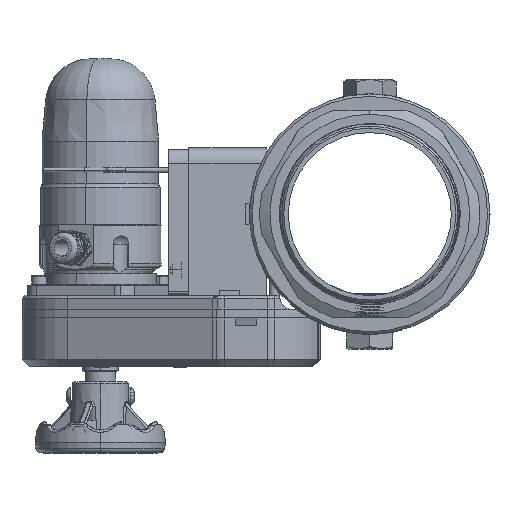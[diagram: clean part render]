
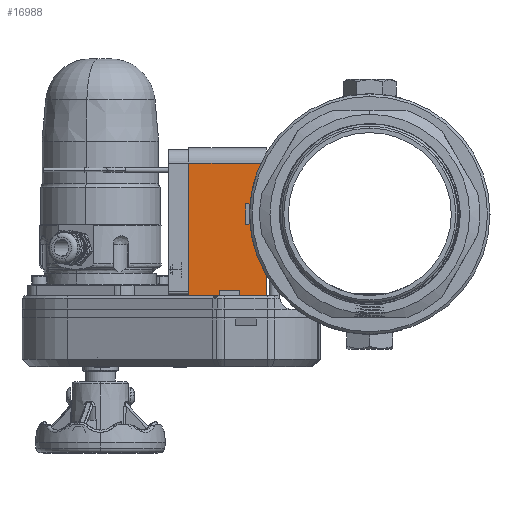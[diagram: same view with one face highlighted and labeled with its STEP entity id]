
A CAD part, front view. The second image highlights one B-rep face of the part: STEP entity #16988.
In plain terms, the highlighted planar face has unit normal (0, -1, 0).
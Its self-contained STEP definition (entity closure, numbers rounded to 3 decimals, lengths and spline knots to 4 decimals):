
#537 = PLANE ( 'NONE',  #30350 ) ;
#844 = CARTESIAN_POINT ( 'NONE',  ( -2.54, -4.185, -2. ) ) ;
#1432 = CARTESIAN_POINT ( 'NONE',  ( -2.54, -4.185, 0.25 ) ) ;
#1604 = ORIENTED_EDGE ( 'NONE', *, *, #32215, .F. ) ;
#1806 = VERTEX_POINT ( 'NONE', #32526 ) ;
#3571 = VERTEX_POINT ( 'NONE', #25082 ) ;
#3695 = CARTESIAN_POINT ( 'NONE',  ( -3.04, -4.185, 0.25 ) ) ;
#5762 = EDGE_CURVE ( 'NONE', #3571, #7443, #15734, .T. ) ;
#5813 = CARTESIAN_POINT ( 'NONE',  ( -3.2, -4.185, -1.875 ) ) ;
#6520 = ORIENTED_EDGE ( 'NONE', *, *, #30633, .F. ) ;
#7107 = CARTESIAN_POINT ( 'NONE',  ( -4.44, -4.185, -2. ) ) ;
#7443 = VERTEX_POINT ( 'NONE', #7107 ) ;
#7804 = CARTESIAN_POINT ( 'NONE',  ( -3.04, -4.185, 0.25 ) ) ;
#8015 = VECTOR ( 'NONE', #41928, 39.3701 ) ;
#10020 = CARTESIAN_POINT ( 'NONE',  ( -3.04, -4.185, -0.25 ) ) ;
#10491 = VERTEX_POINT ( 'NONE', #5813 ) ;
#10784 = DIRECTION ( 'NONE',  ( 0., -1., 0. ) ) ;
#11366 = CARTESIAN_POINT ( 'NONE',  ( -2.54, -4.185, -0.25 ) ) ;
#11660 = CARTESIAN_POINT ( 'NONE',  ( -2.54, -4.185, 1.25 ) ) ;
#11671 = ORIENTED_EDGE ( 'NONE', *, *, #31022, .F. ) ;
#11881 = VERTEX_POINT ( 'NONE', #10020 ) ;
#11995 = LINE ( 'NONE', #7804, #37983 ) ;
#12162 = CARTESIAN_POINT ( 'NONE',  ( -3.2, -4.185, -2. ) ) ;
#13190 = ORIENTED_EDGE ( 'NONE', *, *, #31041, .F. ) ;
#13526 = CARTESIAN_POINT ( 'NONE',  ( -2.54, -4.185, 1.25 ) ) ;
#13591 = EDGE_CURVE ( 'NONE', #25485, #21366, #42012, .T. ) ;
#13975 = DIRECTION ( 'NONE',  ( 0., 0., -1. ) ) ;
#14273 = VECTOR ( 'NONE', #21388, 39.3701 ) ;
#15734 = LINE ( 'NONE', #28394, #37368 ) ;
#16690 = CARTESIAN_POINT ( 'NONE',  ( -4.47, -4.185, -2. ) ) ;
#16936 = EDGE_CURVE ( 'NONE', #7443, #27977, #34296, .T. ) ;
#16981 = LINE ( 'NONE', #42134, #14273 ) ;
#16988 = ADVANCED_FACE ( 'NONE', ( #20226 ), #537, .T. ) ;
#18237 = DIRECTION ( 'NONE',  ( -1., 0., 0. ) ) ;
#18334 = EDGE_CURVE ( 'NONE', #1806, #27977, #34774, .T. ) ;
#18540 = CARTESIAN_POINT ( 'NONE',  ( -3.2, -4.185, -1.875 ) ) ;
#19917 = DIRECTION ( 'NONE',  ( 1., 0., 0. ) ) ;
#20226 = FACE_OUTER_BOUND ( 'NONE', #23967, .T. ) ;
#20580 = VECTOR ( 'NONE', #18237, 39.3701 ) ;
#21366 = VERTEX_POINT ( 'NONE', #1432 ) ;
#21388 = DIRECTION ( 'NONE',  ( 1., 0., 0. ) ) ;
#21747 = VECTOR ( 'NONE', #25385, 39.3701 ) ;
#21985 = ORIENTED_EDGE ( 'NONE', *, *, #36747, .T. ) ;
#22384 = DIRECTION ( 'NONE',  ( 1., 0., 0. ) ) ;
#22619 = VECTOR ( 'NONE', #19917, 39.3701 ) ;
#23967 = EDGE_LOOP ( 'NONE', ( #21985, #32159, #6520, #31753, #13190, #32968, #11671, #28710, #32683, #26176, #27837, #1604 ) ) ;
#24133 = VERTEX_POINT ( 'NONE', #11366 ) ;
#24442 = VECTOR ( 'NONE', #13975, 39.3701 ) ;
#24648 = CARTESIAN_POINT ( 'NONE',  ( -4.47, -4.185, 1.25 ) ) ;
#25082 = CARTESIAN_POINT ( 'NONE',  ( -4.44, -4.185, 1.25 ) ) ;
#25385 = DIRECTION ( 'NONE',  ( 0., 0., -1. ) ) ;
#25485 = VERTEX_POINT ( 'NONE', #3695 ) ;
#25855 = CARTESIAN_POINT ( 'NONE',  ( -4.47, -4.185, -2. ) ) ;
#26176 = ORIENTED_EDGE ( 'NONE', *, *, #16936, .T. ) ;
#26612 = VECTOR ( 'NONE', #36801, 39.3701 ) ;
#26662 = LINE ( 'NONE', #25855, #32136 ) ;
#26943 = EDGE_CURVE ( 'NONE', #11881, #24133, #16981, .T. ) ;
#27837 = ORIENTED_EDGE ( 'NONE', *, *, #18334, .F. ) ;
#27977 = VERTEX_POINT ( 'NONE', #43607 ) ;
#28258 = CARTESIAN_POINT ( 'NONE',  ( -3.2, -4.185, -1.875 ) ) ;
#28291 = DIRECTION ( 'NONE',  ( 0., 0., -1. ) ) ;
#28394 = CARTESIAN_POINT ( 'NONE',  ( -4.44, -4.185, 1.25 ) ) ;
#28710 = ORIENTED_EDGE ( 'NONE', *, *, #42357, .F. ) ;
#28759 = VERTEX_POINT ( 'NONE', #12162 ) ;
#30350 = AXIS2_PLACEMENT_3D ( 'NONE', #24648, #10784, #31781 ) ;
#30633 = EDGE_CURVE ( 'NONE', #24133, #33895, #42921, .T. ) ;
#30790 = CARTESIAN_POINT ( 'NONE',  ( -4.47, -4.185, 1.25 ) ) ;
#31022 = EDGE_CURVE ( 'NONE', #41322, #21366, #39618, .T. ) ;
#31041 = EDGE_CURVE ( 'NONE', #25485, #11881, #11995, .T. ) ;
#31753 = ORIENTED_EDGE ( 'NONE', *, *, #26943, .F. ) ;
#31781 = DIRECTION ( 'NONE',  ( 0., 0., -1. ) ) ;
#32136 = VECTOR ( 'NONE', #22384, 39.3701 ) ;
#32159 = ORIENTED_EDGE ( 'NONE', *, *, #39298, .T. ) ;
#32215 = EDGE_CURVE ( 'NONE', #10491, #1806, #42780, .T. ) ;
#32526 = CARTESIAN_POINT ( 'NONE',  ( -3.7, -4.185, -1.875 ) ) ;
#32599 = DIRECTION ( 'NONE',  ( 1., 0., 0. ) ) ;
#32683 = ORIENTED_EDGE ( 'NONE', *, *, #5762, .T. ) ;
#32968 = ORIENTED_EDGE ( 'NONE', *, *, #13591, .T. ) ;
#33414 = LINE ( 'NONE', #28258, #8015 ) ;
#33777 = CARTESIAN_POINT ( 'NONE',  ( -3.7, -4.185, -1.875 ) ) ;
#33895 = VERTEX_POINT ( 'NONE', #844 ) ;
#34296 = LINE ( 'NONE', #16690, #43511 ) ;
#34774 = LINE ( 'NONE', #33777, #26612 ) ;
#36747 = EDGE_CURVE ( 'NONE', #10491, #28759, #33414, .T. ) ;
#36801 = DIRECTION ( 'NONE',  ( 0., 0., -1. ) ) ;
#37368 = VECTOR ( 'NONE', #39031, 39.3701 ) ;
#37983 = VECTOR ( 'NONE', #28291, 39.3701 ) ;
#39031 = DIRECTION ( 'NONE',  ( 0., 0., -1. ) ) ;
#39298 = EDGE_CURVE ( 'NONE', #28759, #33895, #26662, .T. ) ;
#39618 = LINE ( 'NONE', #13526, #24442 ) ;
#40873 = DIRECTION ( 'NONE',  ( 1., 0., 0. ) ) ;
#41322 = VERTEX_POINT ( 'NONE', #43155 ) ;
#41444 = VECTOR ( 'NONE', #32599, 39.3701 ) ;
#41928 = DIRECTION ( 'NONE',  ( 0., 0., -1. ) ) ;
#42012 = LINE ( 'NONE', #43588, #41444 ) ;
#42127 = LINE ( 'NONE', #30790, #22619 ) ;
#42134 = CARTESIAN_POINT ( 'NONE',  ( -3.04, -4.185, -0.25 ) ) ;
#42357 = EDGE_CURVE ( 'NONE', #3571, #41322, #42127, .T. ) ;
#42780 = LINE ( 'NONE', #18540, #20580 ) ;
#42921 = LINE ( 'NONE', #11660, #21747 ) ;
#43155 = CARTESIAN_POINT ( 'NONE',  ( -2.54, -4.185, 1.25 ) ) ;
#43511 = VECTOR ( 'NONE', #40873, 39.3701 ) ;
#43588 = CARTESIAN_POINT ( 'NONE',  ( -3.04, -4.185, 0.25 ) ) ;
#43607 = CARTESIAN_POINT ( 'NONE',  ( -3.7, -4.185, -2. ) ) ;
